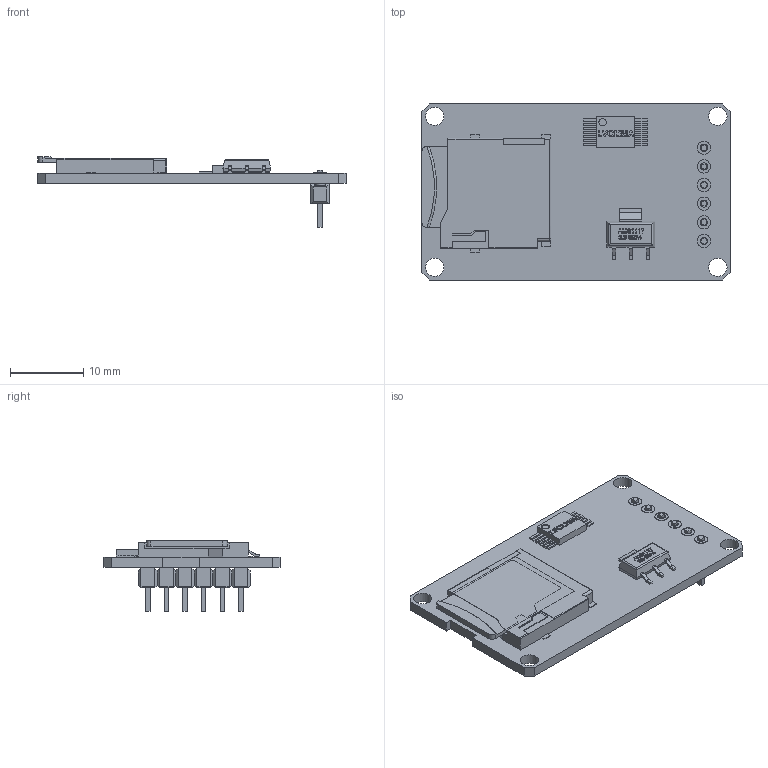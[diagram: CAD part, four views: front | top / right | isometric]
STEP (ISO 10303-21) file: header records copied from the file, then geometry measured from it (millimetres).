
FILE_DESCRIPTION(/* description */ (''),/* implementation_level */ '2;1');
FILE_NAME(/* name */ 'MicroSD Reader Assembly_mod.step',/* time_stamp */ '2024-03-13T12:08:17+01:00',/* author */ (''),/* organization */ (''),/* preprocessor_version */ 'ST-DEVELOPER v20',/* originating_system */ 'Autodesk Translation Framework v12.20.1.177',/* authorisation */ '');
FILE_SCHEMA (('AUTOMOTIVE_DESIGN { 1 0 10303 214 3 1 1 }'));
Length unit declared in the file: millimetre
Products named in the file (5): (Non enregistré); sdreader; AMS1117; card sd; Pin Header 1x6 TH Pitch 2.54mm v1
Assembly tree (4 placements, depth 2):
  (Non enregistré)
    sdreader
    AMS1117
    card sd
    Pin Header 1x6 TH Pitch 2.54mm v1
Bounding box: 42 x 24 x 9.64 mm (x, y, z)
Volume: 1847 mm3; surface area: 3437.2 mm2
Topology: 15 solids, 21 shells, 619 faces, 1819 edges, 1279 vertices
Faces by surface type: plane 511, cylinder 68, bspline 38, torus 1, cone 1
Full cylindrical faces by diameter (mm): 0.965 x2, 0.984 x1, 0.991 x2, 1 x1, 1.02 x1, 1.3 x6, 1.8 x6, 2.5 x4
Entity records: 22053 total; most frequent: CARTESIAN_POINT 5422, ORIENTED_EDGE 3598, DIRECTION 2954, EDGE_CURVE 1819, LINE 1438, VECTOR 1438, VERTEX_POINT 1279, AXIS2_PLACEMENT_3D 758
